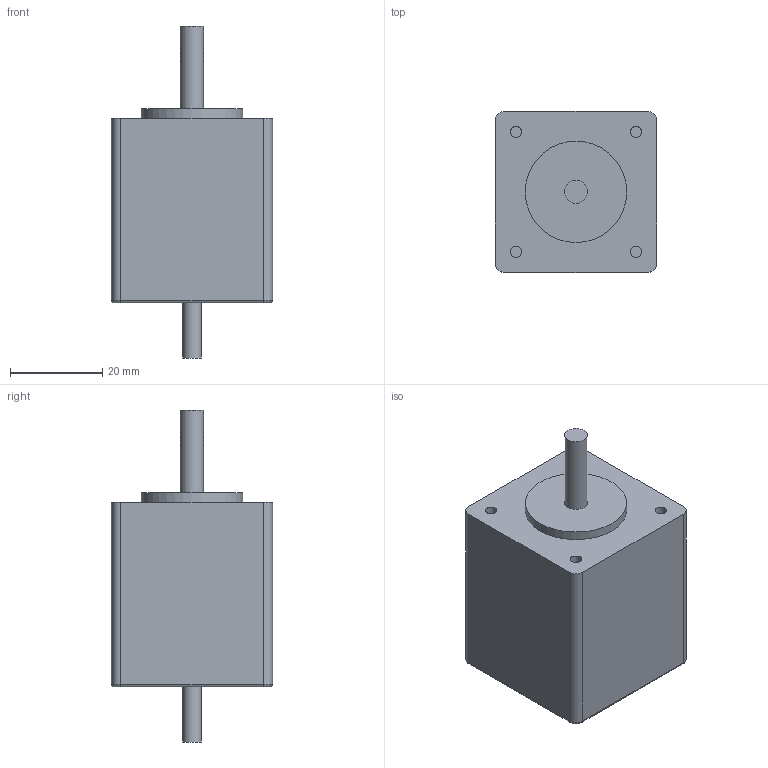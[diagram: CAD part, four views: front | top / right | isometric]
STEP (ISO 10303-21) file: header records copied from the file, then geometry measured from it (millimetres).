
FILE_DESCRIPTION(/* description */ ('Alibre Inc.'),/* implementation_level */ '2;1');
FILE_NAME(/* name */ 'export0',/* time_stamp */ '2013-11-27T10:58:41-07:00',/* author */ (''),/* organization */ (''),/* preprocessor_version */ 'ST-DEVELOPER v14',/* originating_system */ 'Alibre',/* authorisation */ '');
FILE_SCHEMA (('ALIBRE_SCHEMA','CONFIG_CONTROL_DESIGN'));
Length unit declared in the file: centimetre
Products named in the file (1): ID_1
Bounding box: 34.95 x 34.95 x 72 mm (x, y, z)
Volume: 49916 mm3; surface area: 8548.9 mm2
Topology: 1 solids, 1 shells, 36 faces, 67 edges, 42 vertices
Faces by surface type: cylinder 17, plane 15, torus 4
Full cylindrical faces by diameter (mm): 1.221 x2, 2.459 x4, 4 x1, 5 x1, 22 x1
Entity records: 2646 total; most frequent: CARTESIAN_POINT 378, DIRECTION 216, CONSTRAINTPAIRUV 205, REFERENCEDEPENDENTUV 182, REFERENCEPOINTUV 132, ORIENTED_EDGE 116, AXIS2_PLACEMENT_3D 84, PERSISTANTTOPOLOGYATTRIBUTE 79
